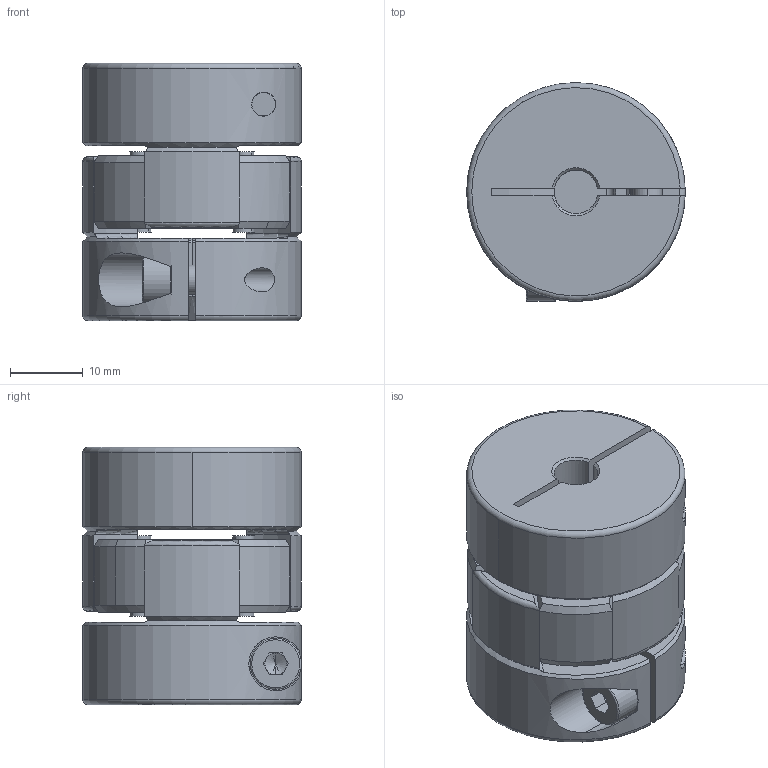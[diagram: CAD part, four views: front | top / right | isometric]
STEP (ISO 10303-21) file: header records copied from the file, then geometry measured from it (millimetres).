
FILE_DESCRIPTION (( 'STEP AP203' ), '1' );
FILE_NAME ('SJCA-30C-6X14_203.STEP', '2013-02-24T08:08:17', ( 'MYCOM' ), ( '' ), 'SwSTEP 2.0', 'SolidWorks 2012', '' );
FILE_SCHEMA (( 'CONFIG_CONTROL_DESIGN' ));
Length unit declared in the file: millimetre
Products named in the file (1): SJCA-30C-6X14_203
Bounding box: 30 x 30 x 35.3 mm (x, y, z)
Volume: 19597.6 mm3; surface area: 9047.6 mm2
Topology: 1 solids, 1 shells, 242 faces, 635 edges, 392 vertices
Faces by surface type: cylinder 81, cone 66, plane 61, torus 34
Entity records: 8027 total; most frequent: CARTESIAN_POINT 1990, DIRECTION 1292, ORIENTED_EDGE 1262, EDGE_CURVE 631, AXIS2_PLACEMENT_3D 546, VERTEX_POINT 392, CIRCLE 303, EDGE_LOOP 259
